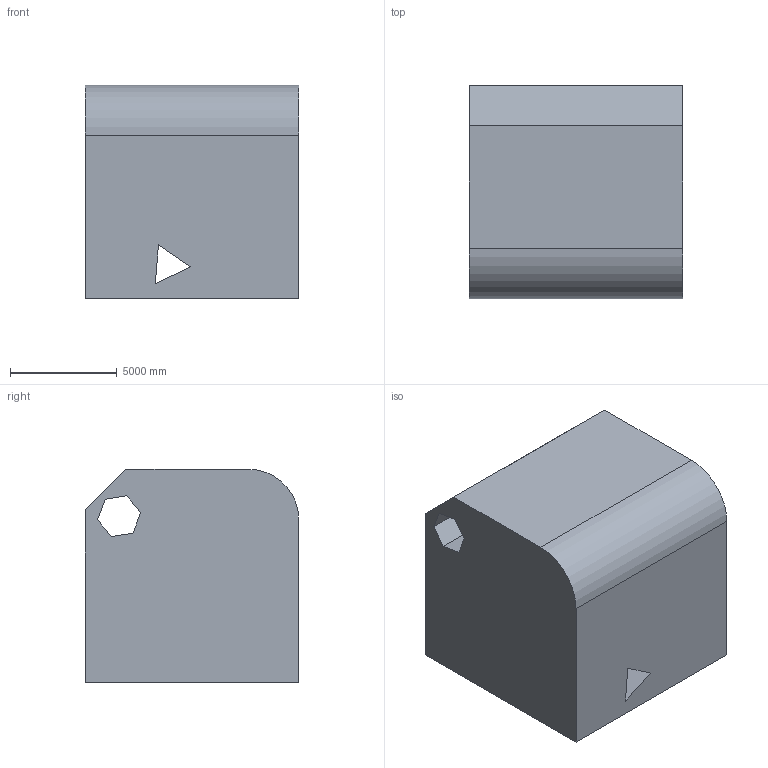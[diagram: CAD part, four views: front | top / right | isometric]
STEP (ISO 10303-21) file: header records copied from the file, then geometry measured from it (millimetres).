
FILE_DESCRIPTION (( 'STEP AP203' ), '1' );
FILE_NAME ('395.STEP', '2022-07-29T11:06:54', ( 'user' ), ( '' ), 'SwSTEP 2.0', 'SolidWorks 2021', '' );
FILE_SCHEMA (( 'CONFIG_CONTROL_DESIGN' ));
Length unit declared in the file: centimetre
Products named in the file (1): 395
Bounding box: 10000 x 10000 x 10000 mm (x, y, z)
Volume: 928601731730.7 mm3; surface area: 680746184.8 mm2
Topology: 1 solids, 1 shells, 17 faces, 45 edges, 30 vertices
Faces by surface type: plane 16, cylinder 1
Entity records: 606 total; most frequent: CARTESIAN_POINT 93, ORIENTED_EDGE 90, DIRECTION 83, EDGE_CURVE 45, VECTOR 43, LINE 43, VERTEX_POINT 30, EDGE_LOOP 21
